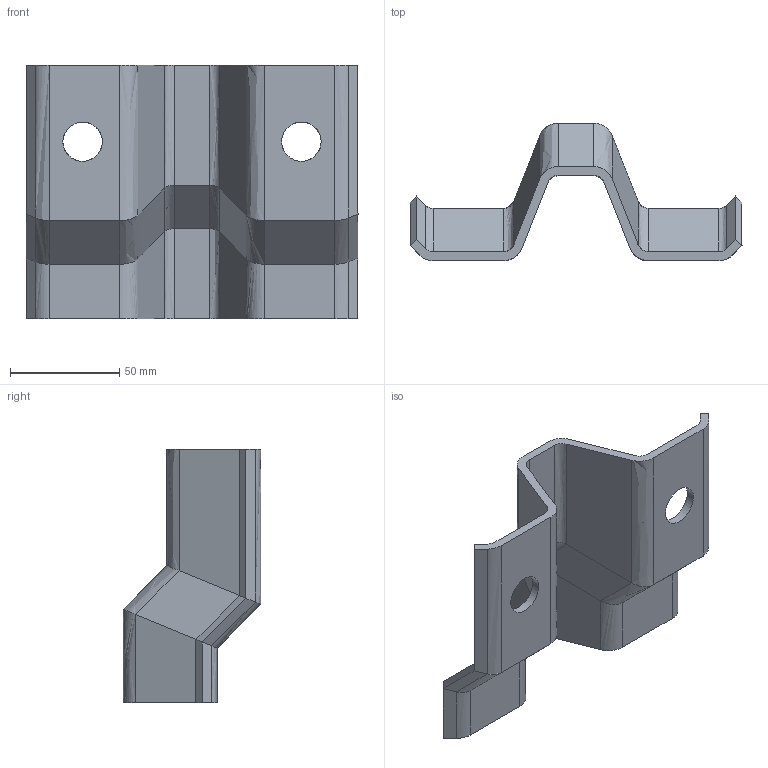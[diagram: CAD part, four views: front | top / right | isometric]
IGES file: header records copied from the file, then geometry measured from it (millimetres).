
Global section: file name: C150; native system: Autodesk RealDWG; preprocessor: Autodesk Translation Framework DWG producer (atf_dwg_producer); organization: unknown; date: 20230703.104209; units: centimetre
Bounding box: 151.72 x 63 x 116 mm (x, y, z)
Volume: 98296.1 mm3; surface area: 52211.3 mm2
Topology: 1 solids, 1 shells, 88 faces, 202 edges, 116 vertices
Faces by surface type: bspline 88
